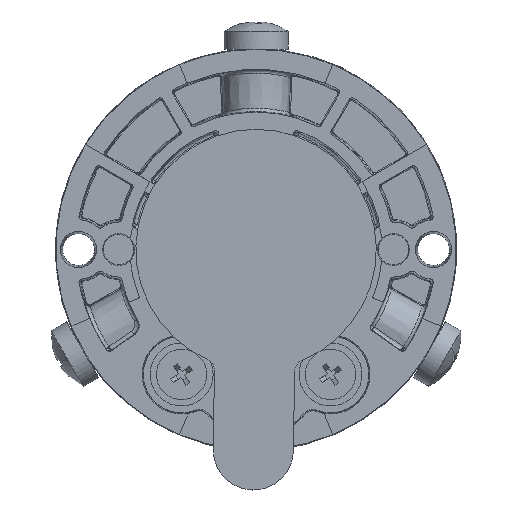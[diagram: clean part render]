
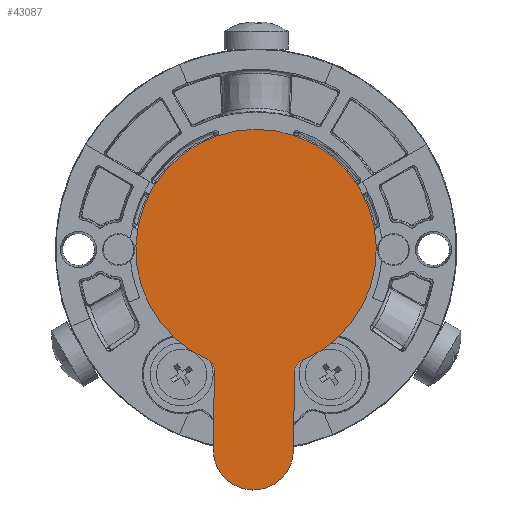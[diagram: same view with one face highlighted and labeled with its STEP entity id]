
A CAD part, front view. The second image highlights one B-rep face of the part: STEP entity #43087.
In plain terms, the highlighted planar face has unit normal (0, -1, 0).
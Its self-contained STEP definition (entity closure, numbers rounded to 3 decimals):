
#3194 = DIRECTION ( 'NONE',  ( 0., -1., 0. ) ) ;
#3567 = ORIENTED_EDGE ( 'NONE', *, *, #16840, .T. ) ;
#5196 = ORIENTED_EDGE ( 'NONE', *, *, #34313, .T. ) ;
#5415 = EDGE_LOOP ( 'NONE', ( #13234, #3567, #5196, #28917, #14894, #28105, #43246 ) ) ;
#5888 = LINE ( 'NONE', #28594, #35769 ) ;
#6620 = CARTESIAN_POINT ( 'NONE',  ( 2.694, -5.017, 17.541 ) ) ;
#7349 = CIRCLE ( 'NONE', #34487, 3.5 ) ;
#7942 = CARTESIAN_POINT ( 'NONE',  ( -0.572, -5.017, 35.086 ) ) ;
#9424 = VECTOR ( 'NONE', #40182, 1000. ) ;
#10324 = AXIS2_PLACEMENT_3D ( 'NONE', #24856, #24689, #39624 ) ;
#11019 = CARTESIAN_POINT ( 'NONE',  ( -4.306, -5.017, 17.634 ) ) ;
#12243 = CIRCLE ( 'NONE', #10324, 10.5 ) ;
#12609 = CARTESIAN_POINT ( 'NONE',  ( 2.786, -5.017, 24.457 ) ) ;
#13234 = ORIENTED_EDGE ( 'NONE', *, *, #16562, .T. ) ;
#14853 = DIRECTION ( 'NONE',  ( 0., 1., 0. ) ) ;
#14894 = ORIENTED_EDGE ( 'NONE', *, *, #16081, .T. ) ;
#15623 = VERTEX_POINT ( 'NONE', #11019 ) ;
#16081 = EDGE_CURVE ( 'NONE', #34425, #39725, #34623, .T. ) ;
#16562 = EDGE_CURVE ( 'NONE', #30200, #31137, #48046, .T. ) ;
#16840 = EDGE_CURVE ( 'NONE', #31137, #15623, #5888, .T. ) ;
#16988 = LINE ( 'NONE', #6620, #9424 ) ;
#17065 = EDGE_CURVE ( 'NONE', #39725, #28875, #28684, .T. ) ;
#18855 = EDGE_CURVE ( 'NONE', #28875, #30200, #12243, .T. ) ;
#19096 = AXIS2_PLACEMENT_3D ( 'NONE', #37389, #22425, #25406 ) ;
#19203 = DIRECTION ( 'NONE',  ( 0., 0., 1. ) ) ;
#19429 = DIRECTION ( 'NONE',  ( 0., 1., 0. ) ) ;
#19594 = DIRECTION ( 'NONE',  ( 0., 0., 1. ) ) ;
#20840 = CARTESIAN_POINT ( 'NONE',  ( -4.213, -5.017, 24.55 ) ) ;
#22425 = DIRECTION ( 'NONE',  ( 0., -1., 0. ) ) ;
#23791 = CARTESIAN_POINT ( 'NONE',  ( 3.407, -5.017, 25.369 ) ) ;
#23999 = VERTEX_POINT ( 'NONE', #37600 ) ;
#24689 = DIRECTION ( 'NONE',  ( 0., -1., 0. ) ) ;
#24856 = CARTESIAN_POINT ( 'NONE',  ( -0.572, -5.017, 35.086 ) ) ;
#25077 = AXIS2_PLACEMENT_3D ( 'NONE', #37001, #14853, #40570 ) ;
#25350 = CARTESIAN_POINT ( 'NONE',  ( -0.572, -5.017, 45.586 ) ) ;
#25406 = DIRECTION ( 'NONE',  ( 0., 0., -1. ) ) ;
#25598 = CARTESIAN_POINT ( 'NONE',  ( -0.806, -5.017, 17.587 ) ) ;
#25748 = AXIS2_PLACEMENT_3D ( 'NONE', #31253, #19429, #19594 ) ;
#27365 = FACE_OUTER_BOUND ( 'NONE', #5415, .T. ) ;
#28105 = ORIENTED_EDGE ( 'NONE', *, *, #17065, .T. ) ;
#28594 = CARTESIAN_POINT ( 'NONE',  ( -4.213, -5.017, 24.55 ) ) ;
#28684 = CIRCLE ( 'NONE', #33102, 10.5 ) ;
#28875 = VERTEX_POINT ( 'NONE', #25350 ) ;
#28917 = ORIENTED_EDGE ( 'NONE', *, *, #39859, .T. ) ;
#29345 = DIRECTION ( 'NONE',  ( 0., 0., 1. ) ) ;
#29653 = PLANE ( 'NONE',  #19096 ) ;
#30200 = VERTEX_POINT ( 'NONE', #39963 ) ;
#31137 = VERTEX_POINT ( 'NONE', #20840 ) ;
#31253 = CARTESIAN_POINT ( 'NONE',  ( -5.213, -5.017, 24.564 ) ) ;
#33012 = DIRECTION ( 'NONE',  ( -0.013, 0., -1. ) ) ;
#33102 = AXIS2_PLACEMENT_3D ( 'NONE', #7942, #34131, #19203 ) ;
#34131 = DIRECTION ( 'NONE',  ( 0., -1., 0. ) ) ;
#34313 = EDGE_CURVE ( 'NONE', #15623, #23999, #7349, .T. ) ;
#34425 = VERTEX_POINT ( 'NONE', #12609 ) ;
#34487 = AXIS2_PLACEMENT_3D ( 'NONE', #25598, #3194, #29345 ) ;
#34623 = CIRCLE ( 'NONE', #25077, 1. ) ;
#35769 = VECTOR ( 'NONE', #33012, 1000. ) ;
#37001 = CARTESIAN_POINT ( 'NONE',  ( 3.786, -5.017, 24.444 ) ) ;
#37389 = CARTESIAN_POINT ( 'NONE',  ( -0.572, -5.017, 35.086 ) ) ;
#37600 = CARTESIAN_POINT ( 'NONE',  ( 2.694, -5.017, 17.541 ) ) ;
#39624 = DIRECTION ( 'NONE',  ( 0., 0., 1. ) ) ;
#39725 = VERTEX_POINT ( 'NONE', #23791 ) ;
#39859 = EDGE_CURVE ( 'NONE', #23999, #34425, #16988, .T. ) ;
#39963 = CARTESIAN_POINT ( 'NONE',  ( -4.81, -5.017, 25.479 ) ) ;
#40182 = DIRECTION ( 'NONE',  ( 0.013, 0., 1. ) ) ;
#40570 = DIRECTION ( 'NONE',  ( 0., 0., 1. ) ) ;
#43087 = ADVANCED_FACE ( 'NONE', ( #27365 ), #29653, .T. ) ;
#43246 = ORIENTED_EDGE ( 'NONE', *, *, #18855, .T. ) ;
#48046 = CIRCLE ( 'NONE', #25748, 1. ) ;
